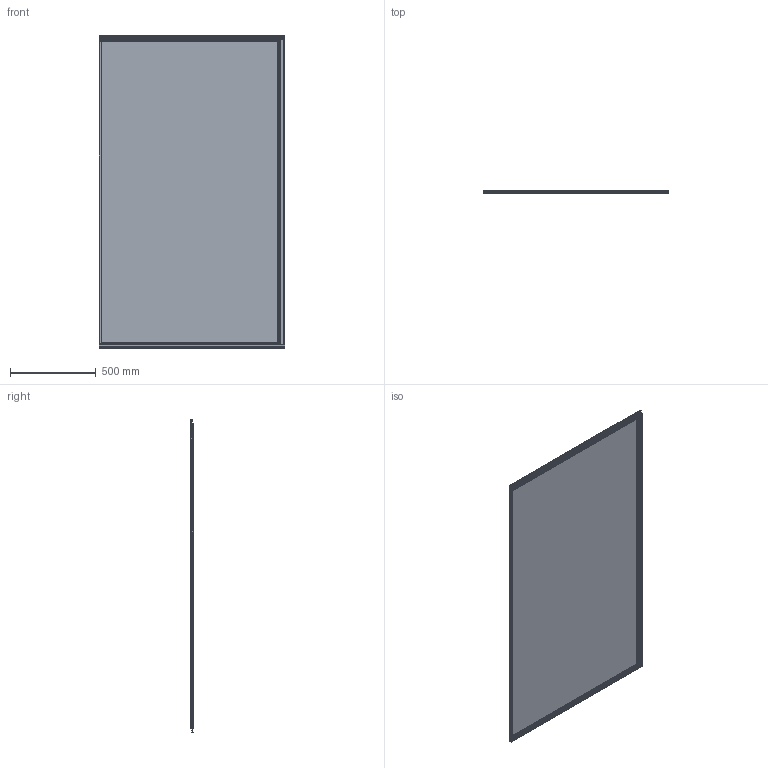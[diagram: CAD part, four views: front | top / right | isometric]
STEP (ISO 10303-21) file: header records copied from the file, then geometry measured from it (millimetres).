
FILE_DESCRIPTION(/* description */ ('PV-Modul Solrif N'),/* implementation_level */ '2;1');
FILE_NAME(/* name */ 'C:\Users\FOS2686\OneDrive - ernstschweizer.ch\Desktop\H106968 Modul.stp',/* time_stamp */ '2023-01-10T07:27:39+01:00',/* author */ ('FOS2686'),/* organization */ (''),/* preprocessor_version */ 'ST-DEVELOPER v18.1',/* originating_system */ 'Autodesk Inventor 2022',/* authorisation */ '');
FILE_SCHEMA (('AUTOMOTIVE_DESIGN { 1 0 10303 214 3 1 1 }'));
Products named in the file (1): H107072
Bounding box: 1080.5 x 18 x 1820 mm (x, y, z)
Volume: 8330659.8 mm3; surface area: 4667796.2 mm2
Topology: 28 solids, 28 shells, 2699 faces, 7055 edges, 4289 vertices
Faces by surface type: cylinder 1034, plane 779, bspline 450, torus 360, sphere 54, cone 22
Full cylindrical faces by diameter (mm): 3.242 x8, 3.3 x2, 4 x8, 4.8 x2, 6 x2, 12.5 x1
Entity records: 100452 total; most frequent: CARTESIAN_POINT 32874, ORIENTED_EDGE 13950, DIRECTION 13421, EDGE_CURVE 6975, AXIS2_PLACEMENT_3D 5186, VERTEX_POINT 4289, LINE 3049, VECTOR 3049
